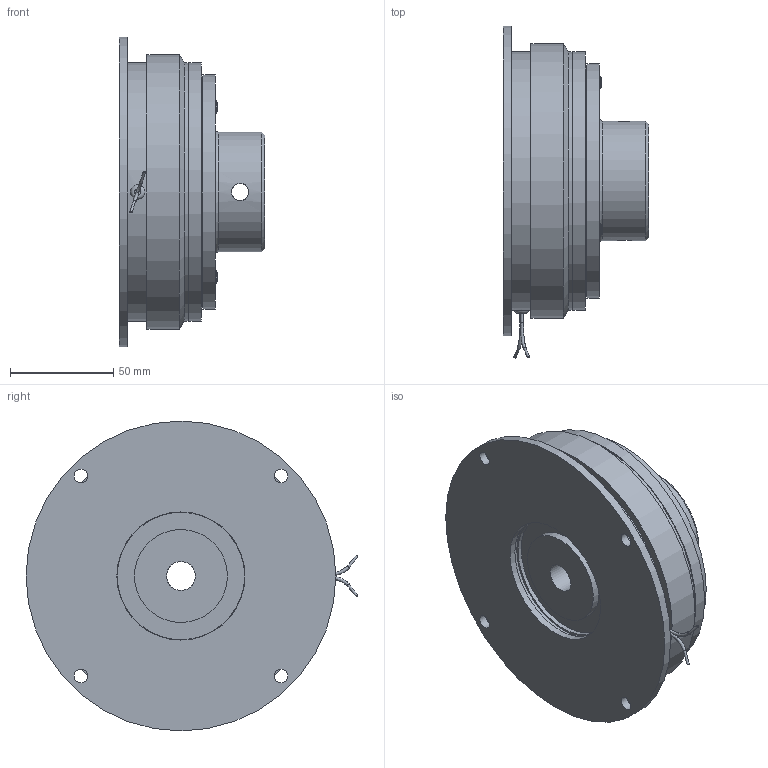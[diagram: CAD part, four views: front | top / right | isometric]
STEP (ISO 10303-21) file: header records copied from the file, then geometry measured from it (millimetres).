
FILE_DESCRIPTION(/* description */ (''),/* implementation_level */ '2;1');
FILE_NAME(/* name */ '\\Srv-tecnico\DATI\UFFICIO TECNICO\ARCHIVIO INVENTOR\DISEGNI\UFFICIO TECNICO\08_Freni_Friz_Elettromagnetici_Monodisco\08_20 ESAL\08_20_125_02 ESAL125_ME\08_20_125_01 ESAL125_ME@STEP.stp',/* time_stamp */ '2016-07-12T13:40:06+02:00',/* author */ ('stefano'),/* organization */ (''),/* preprocessor_version */ 'ST-DEVELOPER v16.1',/* originating_system */ 'Autodesk Inventor 2016',/* authorisation */ '');
FILE_SCHEMA (('AUTOMOTIVE_DESIGN { 1 0 10303 214 3 1 1 }'));
Length unit declared in the file: millimetre
Products named in the file (1): 08_20_125_01 ESAL125_ME_Substitute_1
Bounding box: 70.6 x 160.72 x 150 mm (x, y, z)
Volume: 588968.6 mm3; surface area: 136436 mm2
Topology: 3 solids, 3 shells, 225 faces, 473 edges, 295 vertices
Faces by surface type: cylinder 80, plane 73, cone 65, torus 5, bspline 2
Full cylindrical faces by diameter (mm): 1.154 x2, 1.5 x2, 2 x3, 6 x3, 6.6 x4, 8.376 x2, 10 x3, 10.5 x3, 14 x2, 15 x6, 45 x1, 52 x1, 58 x1, 61.7 x1, 62 x4, 63.8 x1, 74 x1, 78 x1, 79 x1, 112 x1, 113.5 x1, 115 x1, 118 x1, 125 x3, 125.2 x1, 133 x1, 150 x1
Entity records: 6072 total; most frequent: CARTESIAN_POINT 1230, DIRECTION 1025, ORIENTED_EDGE 756, AXIS2_PLACEMENT_3D 456, EDGE_CURVE 373, EDGE_LOOP 365, VERTEX_POINT 269, CIRCLE 232
